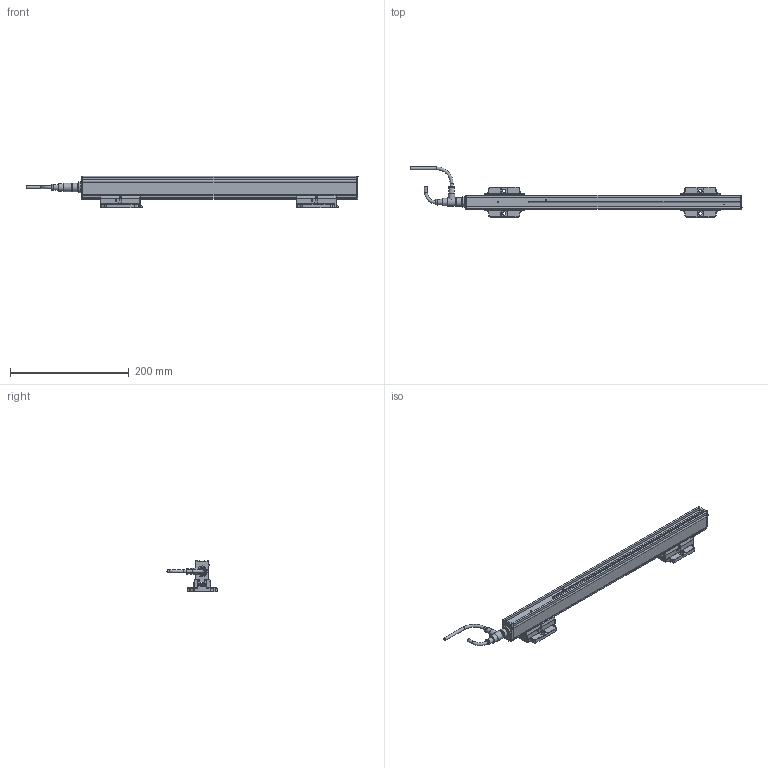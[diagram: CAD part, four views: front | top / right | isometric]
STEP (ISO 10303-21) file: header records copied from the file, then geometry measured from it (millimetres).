
FILE_DESCRIPTION(/* description */ (''),/* implementation_level */ '2;1');
FILE_NAME(/* name */ 'PERFORMAXEASY_0300-0480_3D_NEW',/* time_stamp */ '2014-10-13T09:37:14+02:00',/* author */ (''),/* organization */ (''),/* preprocessor_version */ 'ST-DEVELOPER v14',/* originating_system */ 'HiCAD 2012 1702.3 Build 686',/* authorisation */ '');
FILE_SCHEMA (('AUTOMOTIVE_DESIGN { 1 0 10303 214 1 1 1 1 }'));
Products named in the file (43): -_Performax Easy 300/480; -_End cap; -_Pin; -_Profile; -_Potting; -_Led; 7519020315_Connector appliance M12, 5p (PG9)_4; -_Insert; -_Contacts; -_Housing; -_Connector straight; EXTRUDED SOLID_0; draad gebogen; REVOLVED SOLID_1; REVOLVED SOLID_3; DIN 13-M12x1,5; -_Connector angled; C-EDGE SWEEP_0; REVOLVED SOLID_2; 4532000100_Mounting bracket bars; -_Side piece; -_Slide piece; -_Bracket small; DIN 13-M3; DIN 76-M3
Assembly tree (42 placements, depth 4):
  -_Performax Easy 300/480
    -_End cap
    -_End cap
    -_Pin
    -_Pin
    -_Profile
    -_Potting
    -_Led
    7519020315_Connector appliance M12, 5p (PG9)_4
      -_Insert
      -_Contacts
      -_Housing
    -_Connector straight
      EXTRUDED SOLID_0
      draad gebogen
      REVOLVED SOLID_1
      REVOLVED SOLID_3
        DIN 13-M12x1,5
    -_Connector angled
      REVOLVED SOLID_1
      EXTRUDED SOLID_0
      C-EDGE SWEEP_0
      REVOLVED SOLID_2
      REVOLVED SOLID_3
        DIN 13-M12x1,5
    4532000100_Mounting bracket bars
      -_Side piece
      -_Side piece
      -_Slide piece
      -_Bracket small
        DIN 13-M3
        DIN 13-M3
        DIN 76-M3
        DIN 76-M3
    4532000100_Mounting bracket bars
      -_Side piece
      -_Side piece
      -_Slide piece
      -_Bracket small
        DIN 13-M3
        DIN 13-M3
        DIN 76-M3
        DIN 76-M3
Bounding box: 558.57 x 84.25 x 52.3 mm (x, y, z)
Volume: 393362.9 mm3; surface area: 145151.5 mm2
Topology: 42 solids, 48 shells, 1619 faces, 4011 edges, 2415 vertices
Faces by surface type: cylinder 702, plane 649, torus 102, sphere 78, bspline 64, cone 24
Full cylindrical faces by diameter (mm): 0.8 x10, 1 x5, 1.48 x2, 2.387 x8, 2.661 x1, 3 x16, 4.2 x2, 5 x4, 5.5 x10, 8 x2, 8.2 x1, 8.4 x2, 8.945 x1, 9 x2, 10.16 x1, 10.2 x1, 10.5 x4, 11 x1, 12 x5, 12.8 x1, 13.8 x4, 14.5 x3
Entity records: 83557 total; most frequent: CARTESIAN_POINT 15434, DIRECTION 8122, PRESENTATION_STYLE_ASSIGNMENT 7546, OVER_RIDING_STYLED_ITEM 7504, DRAUGHTING_PRE_DEFINED_CURVE_FONT 7490, CURVE_STYLE 7490, ORIENTED_EDGE 7490, EDGE_CURVE 3745
